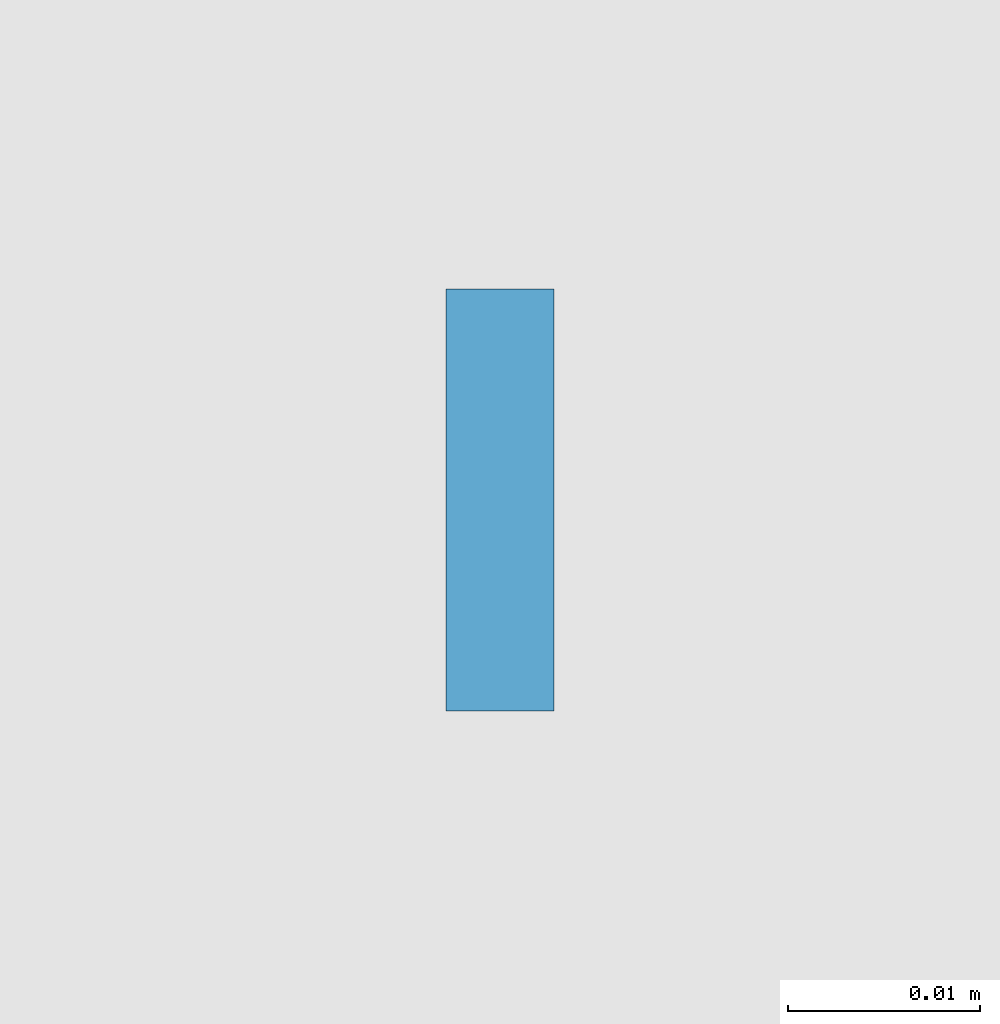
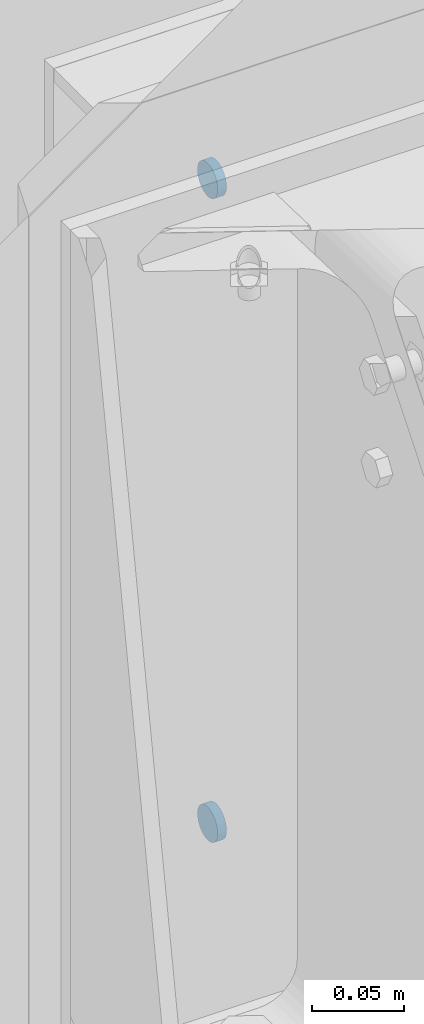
# One storey, part 305 of 362: 2 mechanical fasteners.
"""IFC2X3 building model written with IfcOpenShell, lengths in millimetres."""

from ifc_helpers import new_model, si_unit, frame, origin_with_axes, origin_2d_with_axis, place, context, subcontext, project, spatial, circle, extrude, source, transform, mapped, material, type_object, element, save


model = new_model("IFC2X3")

# Units and contexts
model_context = context("Model", 3, precision=1e-05, world=origin_with_axes())
body_context = subcontext(model_context, "Body", "Model", "MODEL_VIEW")
ifc_project = project(units=[si_unit("LENGTHUNIT", "METRE", prefix="MILLI"), si_unit("AREAUNIT", "SQUARE_METRE"), si_unit("VOLUMEUNIT", "CUBIC_METRE"), si_unit("MASSUNIT", "GRAM", prefix="KILO"), si_unit("TIMEUNIT", "SECOND"), si_unit("PLANEANGLEUNIT", "RADIAN"), si_unit("SOLIDANGLEUNIT", "STERADIAN"), si_unit("THERMODYNAMICTEMPERATUREUNIT", "DEGREE_CELSIUS"), si_unit("LUMINOUSINTENSITYUNIT", "LUMEN")], contexts=[model_context])

# Site, building, storey
site_placement = place(None, origin_with_axes())
site = spatial("IfcSite", under=ifc_project, at=site_placement, Name="Undefined", CompositionType="ELEMENT")
building_placement = place(site_placement, origin_with_axes())
building = spatial("IfcBuilding", under=site, at=building_placement, Name="Undefined", CompositionType="ELEMENT")
storey_placement = place(building_placement, origin_with_axes())
storey = spatial("IfcBuildingStorey", under=building, at=storey_placement, Name="Undefined", CompositionType="ELEMENT", Elevation=0.0)

# Mechanical fasteners
ifc_material = material(Name="6.8")
mechanical_fastener_type = type_object("IfcMechanicalFastenerType", Name="Bolt assembly")
shared_shape = source(origin_with_axes(), body_context, "Body", "SweptSolid", [
    extrude(circle(Radius=11.0, at=origin_2d_with_axis()), frame((0.0, -2.74999998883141, 0.0), z_axis=(0.0, 1.0, 0.0), x_axis=(1.0, 0.0, 0.0)), (0.0, 0.0, 1.0), 5.6),
])
for number, where, z_axis, x_axis, name in (
    (1, (28880.0000000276, 15452.0000000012, 7084.99732627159), (0.0, 0.0, 1.0), (0.0, -1.0, 0.0), "Bolt assembly"),
    (2, (28880.0000000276, 15452.0000000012, 7509.99732627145), (0.0, 0.0, 1.0), (0.0, -1.0, 0.0), "Bolt assembly"),
):
    element("IfcMechanicalFastener", number, at=place(storey_placement, frame(where, z_axis=z_axis, x_axis=x_axis)), inside=storey, type_object=mechanical_fastener_type, material=ifc_material, Name=name, NominalDiameter=20.0, NominalLength=5.5, context=body_context, shape_type="MappedRepresentation", body=[
        mapped(shared_shape, transform((0.0, 0.0, 0.0))),
    ])

save(model, "model.ifc")
